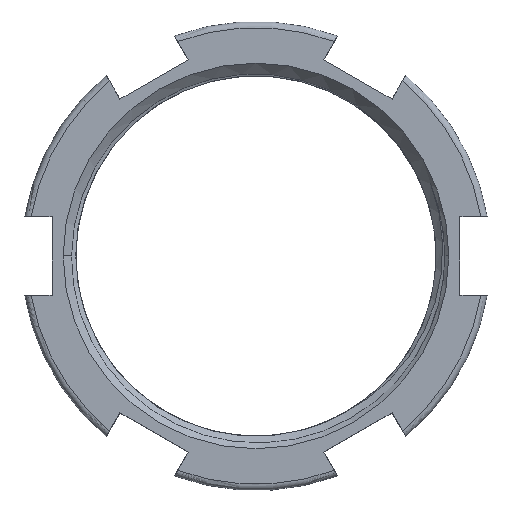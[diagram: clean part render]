
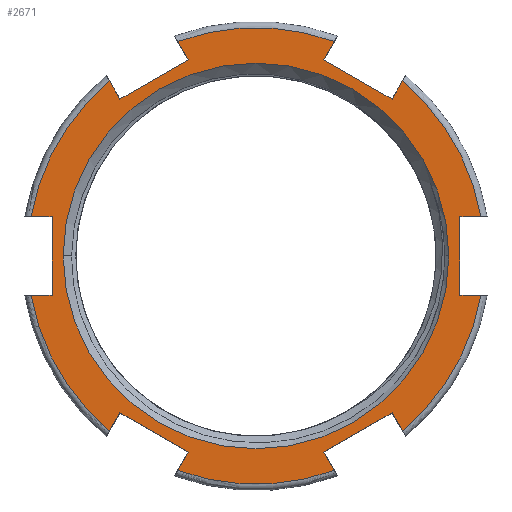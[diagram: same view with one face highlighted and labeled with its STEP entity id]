
A CAD part, top view. The second image highlights one B-rep face of the part: STEP entity #2671.
In plain terms, the highlighted planar face has unit normal (0, 0, 1).
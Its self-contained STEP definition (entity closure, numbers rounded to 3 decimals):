
#45=DIRECTION('',(-1.,0.,0.));
#46=VECTOR('',#45,0.666);
#47=CARTESIAN_POINT('',(7.141,1.25,1.25));
#48=LINE('',#47,#46);
#53=DIRECTION('',(0.,-1.,0.));
#54=VECTOR('',#53,2.5);
#55=CARTESIAN_POINT('',(6.475,1.25,1.25));
#56=LINE('',#55,#54);
#60=DIRECTION('',(-1.,0.,0.));
#61=VECTOR('',#60,0.666);
#62=CARTESIAN_POINT('',(7.141,-1.25,1.25));
#63=LINE('',#62,#61);
#67=DIRECTION('',(-0.5,0.866,0.));
#68=VECTOR('',#67,0.666);
#69=CARTESIAN_POINT('',(4.653,-5.56,1.25));
#70=LINE('',#69,#68);
#74=DIRECTION('',(-0.866,-0.5,0.));
#75=VECTOR('',#74,2.5);
#76=CARTESIAN_POINT('',(4.32,-4.983,1.25));
#77=LINE('',#76,#75);
#81=DIRECTION('',(0.5,-0.866,0.));
#82=VECTOR('',#81,0.666);
#83=CARTESIAN_POINT('',(2.155,-6.233,1.25));
#84=LINE('',#83,#82);
#88=DIRECTION('',(0.5,0.866,0.));
#89=VECTOR('',#88,0.666);
#90=CARTESIAN_POINT('',(-2.488,-6.81,1.25));
#91=LINE('',#90,#89);
#95=DIRECTION('',(-0.866,0.5,0.));
#96=VECTOR('',#95,2.5);
#97=CARTESIAN_POINT('',(-2.155,-6.233,1.25));
#98=LINE('',#97,#96);
#102=DIRECTION('',(-0.5,-0.866,0.));
#103=VECTOR('',#102,0.666);
#104=CARTESIAN_POINT('',(-4.32,-4.983,1.25));
#105=LINE('',#104,#103);
#109=DIRECTION('',(1.,0.,0.));
#110=VECTOR('',#109,0.666);
#111=CARTESIAN_POINT('',(-7.141,-1.25,1.25));
#112=LINE('',#111,#110);
#116=DIRECTION('',(0.,1.,0.));
#117=VECTOR('',#116,2.5);
#118=CARTESIAN_POINT('',(-6.475,-1.25,1.25));
#119=LINE('',#118,#117);
#123=DIRECTION('',(1.,0.,0.));
#124=VECTOR('',#123,0.666);
#125=CARTESIAN_POINT('',(-7.141,1.25,1.25));
#126=LINE('',#125,#124);
#130=DIRECTION('',(0.5,-0.866,0.));
#131=VECTOR('',#130,0.666);
#132=CARTESIAN_POINT('',(-4.653,5.56,1.25));
#133=LINE('',#132,#131);
#137=DIRECTION('',(0.866,0.5,0.));
#138=VECTOR('',#137,2.5);
#139=CARTESIAN_POINT('',(-4.32,4.983,1.25));
#140=LINE('',#139,#138);
#144=DIRECTION('',(-0.5,0.866,0.));
#145=VECTOR('',#144,0.666);
#146=CARTESIAN_POINT('',(-2.155,6.233,1.25));
#147=LINE('',#146,#145);
#151=DIRECTION('',(-0.5,-0.866,0.));
#152=VECTOR('',#151,0.666);
#153=CARTESIAN_POINT('',(2.488,6.81,1.25));
#154=LINE('',#153,#152);
#158=DIRECTION('',(0.866,-0.5,0.));
#159=VECTOR('',#158,2.5);
#160=CARTESIAN_POINT('',(2.155,6.233,1.25));
#161=LINE('',#160,#159);
#165=DIRECTION('',(0.5,0.866,0.));
#166=VECTOR('',#165,0.666);
#167=CARTESIAN_POINT('',(4.32,4.983,1.25));
#168=LINE('',#167,#166);
#230=CARTESIAN_POINT('',(0.,0.,1.25));
#231=DIRECTION('',(0.,0.,-1.));
#232=DIRECTION('',(-1.,0.,0.));
#233=AXIS2_PLACEMENT_3D('',#230,#231,#232);
#1338=CARTESIAN_POINT('',(0.,0.,1.25));
#1339=DIRECTION('',(0.,0.,1.));
#1340=DIRECTION('',(0.343,0.939,0.));
#1341=AXIS2_PLACEMENT_3D('',#1338,#1339,#1340);
#1378=CARTESIAN_POINT('',(0.,0.,1.25));
#1379=DIRECTION('',(0.,0.,1.));
#1380=DIRECTION('',(-0.642,0.767,0.));
#1381=AXIS2_PLACEMENT_3D('',#1378,#1379,#1380);
#1418=CARTESIAN_POINT('',(0.,0.,1.25));
#1419=DIRECTION('',(0.,0.,1.));
#1420=DIRECTION('',(-0.985,-0.172,0.));
#1421=AXIS2_PLACEMENT_3D('',#1418,#1419,#1420);
#1458=CARTESIAN_POINT('',(0.,0.,1.25));
#1459=DIRECTION('',(0.,0.,1.));
#1460=DIRECTION('',(-0.343,-0.939,0.));
#1461=AXIS2_PLACEMENT_3D('',#1458,#1459,#1460);
#1478=CARTESIAN_POINT('',(0.,0.,1.25));
#1479=DIRECTION('',(0.,0.,1.));
#1480=DIRECTION('',(0.985,0.172,0.));
#1481=AXIS2_PLACEMENT_3D('',#1478,#1479,#1480);
#1538=CARTESIAN_POINT('',(0.,0.,1.25));
#1539=DIRECTION('',(0.,0.,1.));
#1540=DIRECTION('',(0.642,-0.767,0.));
#1541=AXIS2_PLACEMENT_3D('',#1538,#1539,#1540);
#2364=CARTESIAN_POINT('',(0.,0.,1.25));
#2365=DIRECTION('',(0.,0.,-1.));
#2366=DIRECTION('',(1.,0.,0.));
#2367=AXIS2_PLACEMENT_3D('',#2364,#2365,#2366);
#2399=CARTESIAN_POINT('',(2.488,6.81,1.25));
#2400=CARTESIAN_POINT('',(2.155,6.233,1.25));
#2401=VERTEX_POINT('',#2399);
#2402=VERTEX_POINT('',#2400);
#2403=CARTESIAN_POINT('',(4.32,4.983,1.25));
#2404=VERTEX_POINT('',#2403);
#2405=CARTESIAN_POINT('',(4.653,5.56,1.25));
#2406=VERTEX_POINT('',#2405);
#2423=CARTESIAN_POINT('',(-4.653,5.56,1.25));
#2424=CARTESIAN_POINT('',(-4.32,4.983,1.25));
#2425=VERTEX_POINT('',#2423);
#2426=VERTEX_POINT('',#2424);
#2427=CARTESIAN_POINT('',(-2.155,6.233,1.25));
#2428=VERTEX_POINT('',#2427);
#2429=CARTESIAN_POINT('',(-2.488,6.81,1.25));
#2430=VERTEX_POINT('',#2429);
#2447=CARTESIAN_POINT('',(-7.141,-1.25,1.25));
#2448=CARTESIAN_POINT('',(-6.475,-1.25,1.25));
#2449=VERTEX_POINT('',#2447);
#2450=VERTEX_POINT('',#2448);
#2451=CARTESIAN_POINT('',(-6.475,1.25,1.25));
#2452=VERTEX_POINT('',#2451);
#2453=CARTESIAN_POINT('',(-7.141,1.25,1.25));
#2454=VERTEX_POINT('',#2453);
#2470=CARTESIAN_POINT('',(-2.488,-6.81,1.25));
#2471=CARTESIAN_POINT('',(-2.155,-6.233,1.25));
#2472=VERTEX_POINT('',#2470);
#2473=VERTEX_POINT('',#2471);
#2474=CARTESIAN_POINT('',(-4.32,-4.983,1.25));
#2475=VERTEX_POINT('',#2474);
#2476=CARTESIAN_POINT('',(-4.653,-5.56,1.25));
#2477=VERTEX_POINT('',#2476);
#2492=CARTESIAN_POINT('',(4.653,-5.56,1.25));
#2493=CARTESIAN_POINT('',(4.32,-4.983,1.25));
#2494=VERTEX_POINT('',#2492);
#2495=VERTEX_POINT('',#2493);
#2496=CARTESIAN_POINT('',(2.155,-6.233,1.25));
#2497=VERTEX_POINT('',#2496);
#2498=CARTESIAN_POINT('',(2.488,-6.81,1.25));
#2499=VERTEX_POINT('',#2498);
#2514=CARTESIAN_POINT('',(7.141,1.25,1.25));
#2515=CARTESIAN_POINT('',(6.475,1.25,1.25));
#2516=VERTEX_POINT('',#2514);
#2517=VERTEX_POINT('',#2515);
#2518=CARTESIAN_POINT('',(6.475,-1.25,1.25));
#2519=VERTEX_POINT('',#2518);
#2520=CARTESIAN_POINT('',(7.141,-1.25,1.25));
#2521=VERTEX_POINT('',#2520);
#2537=CARTESIAN_POINT('',(6.125,0.,1.25));
#2538=CARTESIAN_POINT('',(-6.125,0.,1.25));
#2539=VERTEX_POINT('',#2537);
#2540=VERTEX_POINT('',#2538);
#2610=CARTESIAN_POINT('',(0.,0.,1.25));
#2611=DIRECTION('',(0.,0.,1.));
#2612=DIRECTION('',(1.,0.,0.));
#2613=AXIS2_PLACEMENT_3D('',#2610,#2611,#2612);
#2614=PLANE('',#2613);
#2616=ORIENTED_EDGE('',*,*,#2615,.T.);
#2618=ORIENTED_EDGE('',*,*,#2617,.T.);
#2620=ORIENTED_EDGE('',*,*,#2619,.F.);
#2622=ORIENTED_EDGE('',*,*,#2621,.F.);
#2624=ORIENTED_EDGE('',*,*,#2623,.T.);
#2626=ORIENTED_EDGE('',*,*,#2625,.T.);
#2628=ORIENTED_EDGE('',*,*,#2627,.T.);
#2630=ORIENTED_EDGE('',*,*,#2629,.F.);
#2632=ORIENTED_EDGE('',*,*,#2631,.T.);
#2634=ORIENTED_EDGE('',*,*,#2633,.T.);
#2636=ORIENTED_EDGE('',*,*,#2635,.T.);
#2638=ORIENTED_EDGE('',*,*,#2637,.F.);
#2640=ORIENTED_EDGE('',*,*,#2639,.T.);
#2642=ORIENTED_EDGE('',*,*,#2641,.T.);
#2644=ORIENTED_EDGE('',*,*,#2643,.F.);
#2646=ORIENTED_EDGE('',*,*,#2645,.F.);
#2648=ORIENTED_EDGE('',*,*,#2647,.T.);
#2650=ORIENTED_EDGE('',*,*,#2649,.T.);
#2652=ORIENTED_EDGE('',*,*,#2651,.T.);
#2654=ORIENTED_EDGE('',*,*,#2653,.F.);
#2656=ORIENTED_EDGE('',*,*,#2655,.T.);
#2658=ORIENTED_EDGE('',*,*,#2657,.T.);
#2660=ORIENTED_EDGE('',*,*,#2659,.T.);
#2662=ORIENTED_EDGE('',*,*,#2661,.F.);
#2663=EDGE_LOOP('',(#2616,#2618,#2620,#2622,#2624,#2626,#2628,#2630,#2632,#2634,
#2636,#2638,#2640,#2642,#2644,#2646,#2648,#2650,#2652,#2654,#2656,#2658,#2660,
#2662));
#2664=FACE_OUTER_BOUND('',#2663,.F.);
#2666=ORIENTED_EDGE('',*,*,#2665,.F.);
#2668=ORIENTED_EDGE('',*,*,#2667,.F.);
#2669=EDGE_LOOP('',(#2666,#2668));
#2670=FACE_BOUND('',#2669,.F.);
#234=CIRCLE('',#233,6.125);
#1342=CIRCLE('',#1341,7.25);
#1382=CIRCLE('',#1381,7.25);
#1422=CIRCLE('',#1421,7.25);
#1462=CIRCLE('',#1461,7.25);
#1482=CIRCLE('',#1481,7.25);
#1542=CIRCLE('',#1541,7.25);
#2368=CIRCLE('',#2367,6.125);
#2615=EDGE_CURVE('',#2516,#2517,#48,.T.);
#2617=EDGE_CURVE('',#2517,#2519,#56,.T.);
#2619=EDGE_CURVE('',#2521,#2519,#63,.T.);
#2621=EDGE_CURVE('',#2494,#2521,#1542,.T.);
#2623=EDGE_CURVE('',#2494,#2495,#70,.T.);
#2625=EDGE_CURVE('',#2495,#2497,#77,.T.);
#2627=EDGE_CURVE('',#2497,#2499,#84,.T.);
#2629=EDGE_CURVE('',#2472,#2499,#1462,.T.);
#2631=EDGE_CURVE('',#2472,#2473,#91,.T.);
#2633=EDGE_CURVE('',#2473,#2475,#98,.T.);
#2635=EDGE_CURVE('',#2475,#2477,#105,.T.);
#2637=EDGE_CURVE('',#2449,#2477,#1422,.T.);
#2639=EDGE_CURVE('',#2449,#2450,#112,.T.);
#2641=EDGE_CURVE('',#2450,#2452,#119,.T.);
#2643=EDGE_CURVE('',#2454,#2452,#126,.T.);
#2645=EDGE_CURVE('',#2425,#2454,#1382,.T.);
#2647=EDGE_CURVE('',#2425,#2426,#133,.T.);
#2649=EDGE_CURVE('',#2426,#2428,#140,.T.);
#2651=EDGE_CURVE('',#2428,#2430,#147,.T.);
#2653=EDGE_CURVE('',#2401,#2430,#1342,.T.);
#2655=EDGE_CURVE('',#2401,#2402,#154,.T.);
#2657=EDGE_CURVE('',#2402,#2404,#161,.T.);
#2659=EDGE_CURVE('',#2404,#2406,#168,.T.);
#2661=EDGE_CURVE('',#2516,#2406,#1482,.T.);
#2665=EDGE_CURVE('',#2540,#2539,#234,.T.);
#2667=EDGE_CURVE('',#2539,#2540,#2368,.T.);
#2671=ADVANCED_FACE('',(#2664,#2670),#2614,.T.);
